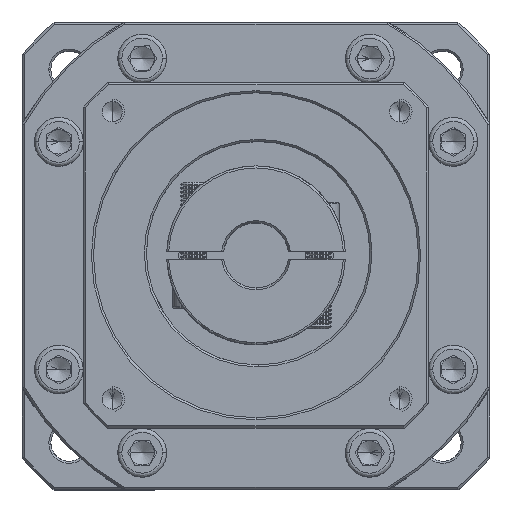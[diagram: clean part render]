
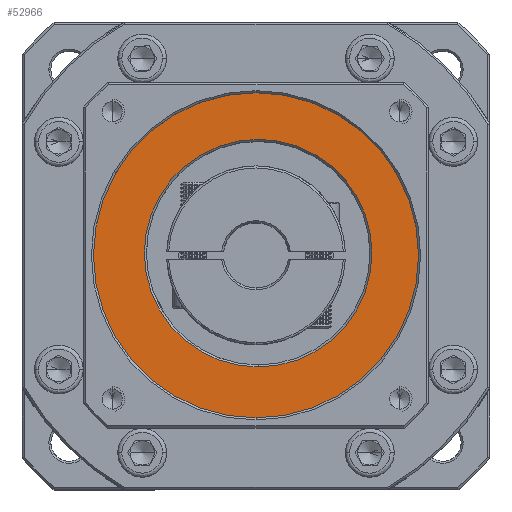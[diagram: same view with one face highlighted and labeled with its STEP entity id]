
A CAD part, top view. The second image highlights one B-rep face of the part: STEP entity #52966.
In plain terms, the highlighted planar face has unit normal (0, 0, 1).
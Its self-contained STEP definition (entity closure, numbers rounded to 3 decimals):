
#6667 = DIRECTION ( 'NONE',  ( 0., -1., 0. ) ) ;
#7107 = ORIENTED_EDGE ( 'NONE', *, *, #34541, .T. ) ;
#10812 = CARTESIAN_POINT ( 'NONE',  ( 71.758, 62.033, -19.515 ) ) ;
#13176 = VERTEX_POINT ( 'NONE', #34232 ) ;
#15269 = ORIENTED_EDGE ( 'NONE', *, *, #115442, .T. ) ;
#19742 = AXIS2_PLACEMENT_3D ( 'NONE', #26261, #77715, #99595 ) ;
#22187 = CIRCLE ( 'NONE', #84136, 40. ) ;
#22387 = DIRECTION ( 'NONE',  ( 0., 0., 1. ) ) ;
#22967 = CARTESIAN_POINT ( 'NONE',  ( 71.758, 22.033, -19.515 ) ) ;
#26261 = CARTESIAN_POINT ( 'NONE',  ( 72.292, 62.575, -19.515 ) ) ;
#28208 = CARTESIAN_POINT ( 'NONE',  ( 71.758, 62.033, -19.515 ) ) ;
#31140 = DIRECTION ( 'NONE',  ( 0., 0., -1. ) ) ;
#31294 = CARTESIAN_POINT ( 'NONE',  ( 71.758, 62.033, -19.515 ) ) ;
#34108 = EDGE_LOOP ( 'NONE', ( #124963, #7107 ) ) ;
#34232 = CARTESIAN_POINT ( 'NONE',  ( 72.292, 90.575, -19.515 ) ) ;
#34541 = EDGE_CURVE ( 'NONE', #55415, #128988, #65813, .T. ) ;
#43586 = AXIS2_PLACEMENT_3D ( 'NONE', #28208, #47823, #6667 ) ;
#46645 = EDGE_CURVE ( 'NONE', #13176, #131041, #129098, .T. ) ;
#47823 = DIRECTION ( 'NONE',  ( 0., 0., 1. ) ) ;
#52966 = ADVANCED_FACE ( 'NONE', ( #89539, #127869 ), #70649, .T. ) ;
#54617 = DIRECTION ( 'NONE',  ( 0., -1., 0. ) ) ;
#55415 = VERTEX_POINT ( 'NONE', #61203 ) ;
#61203 = CARTESIAN_POINT ( 'NONE',  ( 71.758, 102.033, -19.515 ) ) ;
#62470 = CARTESIAN_POINT ( 'NONE',  ( 72.292, 62.575, -19.515 ) ) ;
#62714 = DIRECTION ( 'NONE',  ( 0., -1., 0. ) ) ;
#65813 = CIRCLE ( 'NONE', #72188, 40. ) ;
#70649 = PLANE ( 'NONE',  #43586 ) ;
#72188 = AXIS2_PLACEMENT_3D ( 'NONE', #10812, #127864, #62714 ) ;
#77715 = DIRECTION ( 'NONE',  ( 0., 0., -1. ) ) ;
#84136 = AXIS2_PLACEMENT_3D ( 'NONE', #31294, #22387, #54617 ) ;
#89539 = FACE_OUTER_BOUND ( 'NONE', #34108, .T. ) ;
#91833 = AXIS2_PLACEMENT_3D ( 'NONE', #62470, #31140, #116455 ) ;
#94689 = CIRCLE ( 'NONE', #19742, 28. ) ;
#98321 = EDGE_CURVE ( 'NONE', #128988, #55415, #22187, .T. ) ;
#99595 = DIRECTION ( 'NONE',  ( 0., -1., 0. ) ) ;
#115442 = EDGE_CURVE ( 'NONE', #131041, #13176, #94689, .T. ) ;
#116455 = DIRECTION ( 'NONE',  ( 0., -1., 0. ) ) ;
#117173 = EDGE_LOOP ( 'NONE', ( #15269, #137589 ) ) ;
#124963 = ORIENTED_EDGE ( 'NONE', *, *, #98321, .T. ) ;
#127864 = DIRECTION ( 'NONE',  ( 0., 0., 1. ) ) ;
#127869 = FACE_BOUND ( 'NONE', #117173, .T. ) ;
#128988 = VERTEX_POINT ( 'NONE', #22967 ) ;
#129098 = CIRCLE ( 'NONE', #91833, 28. ) ;
#131041 = VERTEX_POINT ( 'NONE', #137540 ) ;
#137540 = CARTESIAN_POINT ( 'NONE',  ( 72.292, 34.575, -19.515 ) ) ;
#137589 = ORIENTED_EDGE ( 'NONE', *, *, #46645, .T. ) ;
